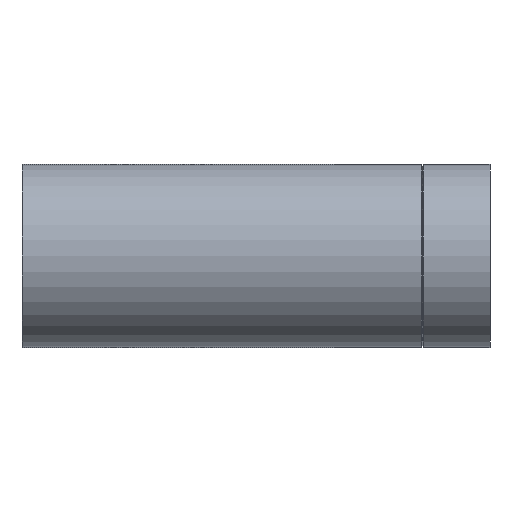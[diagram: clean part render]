
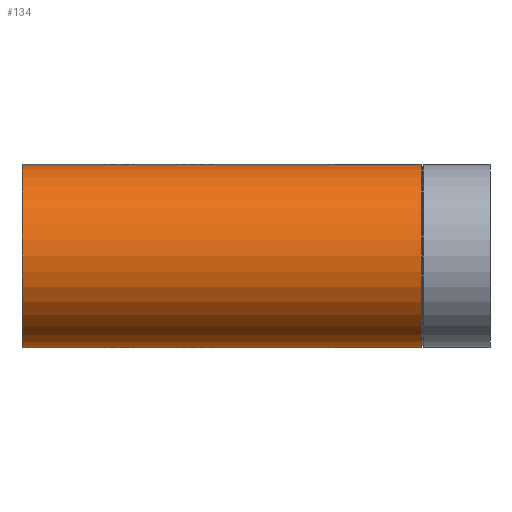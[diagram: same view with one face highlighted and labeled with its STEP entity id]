
A CAD part, left-side view. The second image highlights one B-rep face of the part: STEP entity #134.
In plain terms, the highlighted cylindrical face has radius 67.5 mm (diameter 135 mm), a full revolution.
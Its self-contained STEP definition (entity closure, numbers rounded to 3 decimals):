
#16=ELLIPSE($,#151,73.061,67.5);
#17=ELLIPSE($,#152,176.386,67.5);
#20=CYLINDRICAL_SURFACE($,#150,67.5);
#27=FACE_BOUND($,#51,.T.);
#28=FACE_BOUND($,#52,.T.);
#29=FACE_BOUND($,#53,.T.);
#51=EDGE_LOOP($,(#108,#109));
#52=EDGE_LOOP($,(#110));
#53=EDGE_LOOP($,(#111));
#71=CIRCLE($,#149,67.5);
#72=CIRCLE($,#153,67.5);
#80=VERTEX_POINT($,#223);
#81=VERTEX_POINT($,#226);
#82=VERTEX_POINT($,#227);
#83=VERTEX_POINT($,#230);
#93=EDGE_CURVE($,#80,#80,#71,.T.);
#94=EDGE_CURVE($,#81,#82,#16,.T.);
#95=EDGE_CURVE($,#82,#81,#17,.T.);
#96=EDGE_CURVE($,#83,#83,#72,.T.);
#108=ORIENTED_EDGE($,*,*,#94,.T.);
#109=ORIENTED_EDGE($,*,*,#95,.T.);
#110=ORIENTED_EDGE($,*,*,#96,.T.);
#111=ORIENTED_EDGE($,*,*,#93,.T.);
#134=ADVANCED_FACE($,(#27,#28,#29),#20,.T.);
#149=AXIS2_PLACEMENT_3D($,#224,#178,#179);
#150=AXIS2_PLACEMENT_3D($,#225,#180,#181);
#151=AXIS2_PLACEMENT_3D($,#228,#182,#183);
#152=AXIS2_PLACEMENT_3D($,#229,#184,#185);
#153=AXIS2_PLACEMENT_3D($,#231,#186,#187);
#178=DIRECTION('center_axis',(0.,1.,0.));
#179=DIRECTION('ref_axis',(1.,0.,0.));
#180=DIRECTION('center_axis',(0.,1.,0.));
#181=DIRECTION('ref_axis',(1.,0.,0.));
#182=DIRECTION('center_axis',(-0.383,-0.924,0.));
#183=DIRECTION('ref_axis',(0.924,-0.383,0.));
#184=DIRECTION('center_axis',(-0.924,0.383,0.));
#185=DIRECTION('ref_axis',(-0.383,-0.924,0.));
#186=DIRECTION('center_axis',(0.,-1.,0.));
#187=DIRECTION('ref_axis',(1.,0.,0.));
#223=CARTESIAN_POINT('',(67.5,50.779,0.));
#224=CARTESIAN_POINT('Origin',(0.,50.779,0.));
#225=CARTESIAN_POINT('Origin',(0.,0.,0.));
#226=CARTESIAN_POINT('',(0.,115.,-67.5));
#227=CARTESIAN_POINT('',(0.,115.,67.5));
#228=CARTESIAN_POINT('Origin',(0.,115.,0.));
#229=CARTESIAN_POINT('Origin',(0.,115.,0.));
#230=CARTESIAN_POINT('',(-67.5,345.,0.));
#231=CARTESIAN_POINT('Origin',(0.,345.,0.));
